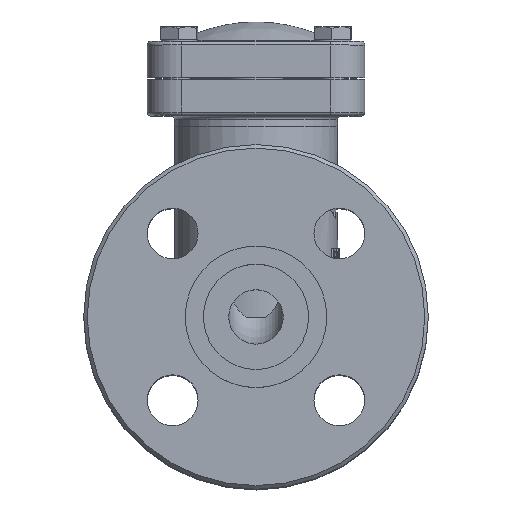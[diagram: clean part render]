
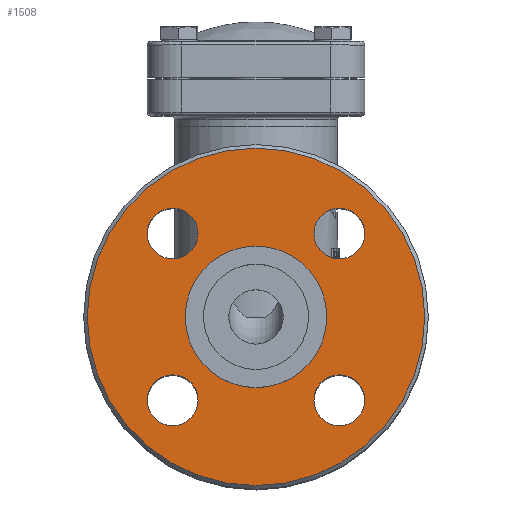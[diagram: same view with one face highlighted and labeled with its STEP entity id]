
A CAD part, top view. The second image highlights one B-rep face of the part: STEP entity #1508.
In plain terms, the highlighted planar face has unit normal (0, 0, 1).
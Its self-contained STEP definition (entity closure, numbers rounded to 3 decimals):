
#1508=ADVANCED_FACE('',(#7348,#7350,#7352,#7354,#7356,#7358),#7360,.F.);
#7348=FACE_BOUND('',#7349,.T.);
#7349=EDGE_LOOP('',(#10409));
#7350=FACE_BOUND('',#7351,.T.);
#7351=EDGE_LOOP('',(#10410));
#7352=FACE_BOUND('',#7353,.T.);
#7353=EDGE_LOOP('',(#10411));
#7354=FACE_BOUND('',#7355,.T.);
#7355=EDGE_LOOP('',(#10412));
#7356=FACE_BOUND('',#7357,.T.);
#7357=EDGE_LOOP('',(#10413));
#7358=FACE_BOUND('',#7359,.T.);
#7359=EDGE_LOOP('',(#10414));
#7360=PLANE('',#7361);
#7361=AXIS2_PLACEMENT_3D('',#7362,#7363,#7364);
#7362=CARTESIAN_POINT('',(0.,0.,60.5));
#7363=DIRECTION('',(0.,0.,-1.));
#7364=DIRECTION('',(0.,1.,0.));
#10409=ORIENTED_EDGE('',*,*,#11926,.F.);
#10410=ORIENTED_EDGE('',*,*,#11927,.T.);
#10411=ORIENTED_EDGE('',*,*,#11921,.F.);
#10412=ORIENTED_EDGE('',*,*,#11922,.F.);
#10413=ORIENTED_EDGE('',*,*,#11923,.F.);
#10414=ORIENTED_EDGE('',*,*,#11924,.F.);
#11921=EDGE_CURVE('',#13155,#13155,#13156,.T.);
#11922=EDGE_CURVE('',#13157,#13157,#13158,.T.);
#11923=EDGE_CURVE('',#13159,#13159,#13160,.T.);
#11924=EDGE_CURVE('',#13161,#13161,#13162,.T.);
#11926=EDGE_CURVE('',#13165,#13165,#13166,.F.);
#11927=EDGE_CURVE('',#13167,#13167,#13168,.T.);
#13155=VERTEX_POINT('',#22621);
#13156=CIRCLE('',#22622,7.);
#13157=VERTEX_POINT('',#22626);
#13158=CIRCLE('',#22627,7.);
#13159=VERTEX_POINT('',#22631);
#13160=CIRCLE('',#22632,7.);
#13161=VERTEX_POINT('',#22636);
#13162=CIRCLE('',#22637,7.);
#13165=VERTEX_POINT('',#22646);
#13166=CIRCLE('',#22647,46.5);
#13167=VERTEX_POINT('',#22651);
#13168=CIRCLE('',#22652,19.5);
#22621=CARTESIAN_POINT('',(29.981,-22.981,60.5));
#22622=AXIS2_PLACEMENT_3D('',#22623,#22624,#22625);
#22623=CARTESIAN_POINT('',(22.981,-22.981,60.5));
#22624=DIRECTION('',(0.,0.,1.));
#22625=DIRECTION('',(1.,0.,0.));
#22626=CARTESIAN_POINT('',(-15.981,-22.981,60.5));
#22627=AXIS2_PLACEMENT_3D('',#22628,#22629,#22630);
#22628=CARTESIAN_POINT('',(-22.981,-22.981,60.5));
#22629=DIRECTION('',(0.,0.,1.));
#22630=DIRECTION('',(1.,0.,0.));
#22631=CARTESIAN_POINT('',(-15.981,22.981,60.5));
#22632=AXIS2_PLACEMENT_3D('',#22633,#22634,#22635);
#22633=CARTESIAN_POINT('',(-22.981,22.981,60.5));
#22634=DIRECTION('',(0.,0.,1.));
#22635=DIRECTION('',(1.,0.,0.));
#22636=CARTESIAN_POINT('',(29.981,22.981,60.5));
#22637=AXIS2_PLACEMENT_3D('',#22638,#22639,#22640);
#22638=CARTESIAN_POINT('',(22.981,22.981,60.5));
#22639=DIRECTION('',(0.,0.,1.));
#22640=DIRECTION('',(1.,0.,0.));
#22646=CARTESIAN_POINT('',(-46.5,0.,60.5));
#22647=AXIS2_PLACEMENT_3D('',#22648,#22649,#22650);
#22648=CARTESIAN_POINT('',(0.,0.,60.5));
#22649=DIRECTION('',(0.,0.,1.));
#22650=DIRECTION('',(-1.,0.,0.));
#22651=CARTESIAN_POINT('',(0.,19.5,60.5));
#22652=AXIS2_PLACEMENT_3D('',#22653,#22654,#22655);
#22653=CARTESIAN_POINT('',(0.,0.,60.5));
#22654=DIRECTION('',(0.,0.,-1.));
#22655=DIRECTION('',(0.,1.,0.));
